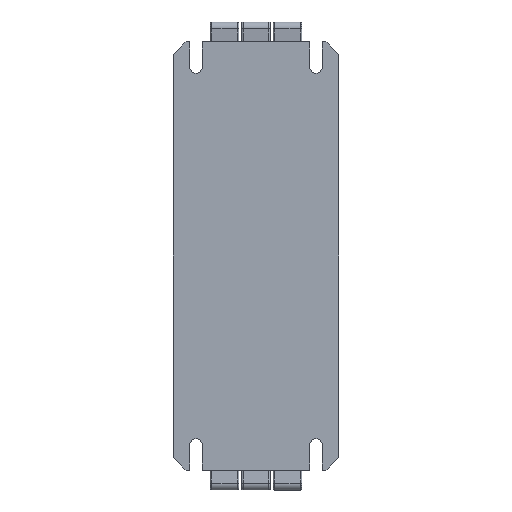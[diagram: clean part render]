
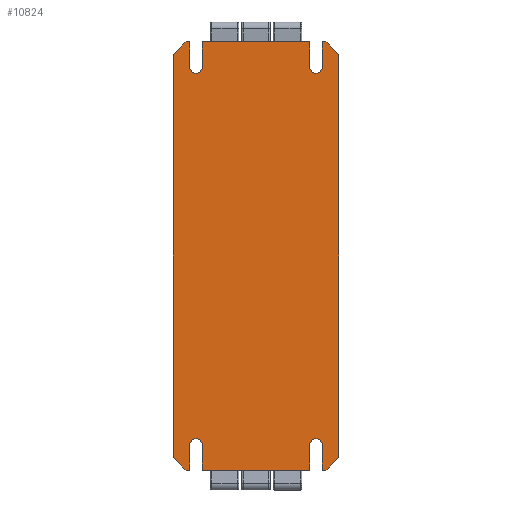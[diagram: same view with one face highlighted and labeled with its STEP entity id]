
A CAD part, front view. The second image highlights one B-rep face of the part: STEP entity #10824.
In plain terms, the highlighted planar face has unit normal (0, -1, 0).
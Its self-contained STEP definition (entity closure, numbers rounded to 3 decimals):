
#9932=CARTESIAN_POINT('',(-29.,-29.,-70.5));
#9933=VERTEX_POINT('',#9932);
#9940=CARTESIAN_POINT('',(-29.,-29.,70.5));
#9941=VERTEX_POINT('',#9940);
#9942=CARTESIAN_POINT('',(-29.,-29.,70.5));
#9943=DIRECTION('',(0.0,0.0,-1.0));
#9944=VECTOR('',#9943,141.0);
#9945=LINE('',#9942,#9944);
#9946=EDGE_CURVE('',#9941,#9933,#9945,.T.);
#9982=CARTESIAN_POINT('',(24.5,-29.,75.0));
#9983=VERTEX_POINT('',#9982);
#9984=CARTESIAN_POINT('',(29.,-29.,70.5));
#9985=VERTEX_POINT('',#9984);
#9986=CARTESIAN_POINT('',(24.5,-29.,75.0));
#9987=DIRECTION('',(0.707,0.0,-0.707));
#9988=VECTOR('',#9987,6.364);
#9989=LINE('',#9986,#9988);
#9990=EDGE_CURVE('',#9983,#9985,#9989,.T.);
#10031=CARTESIAN_POINT('',(23.25,-29.,75.0));
#10032=VERTEX_POINT('',#10031);
#10039=CARTESIAN_POINT('',(24.5,-29.,75.0));
#10040=DIRECTION('',(-1.0,0.0,0.0));
#10041=VECTOR('',#10040,1.25);
#10042=LINE('',#10039,#10041);
#10043=EDGE_CURVE('',#9983,#10032,#10042,.T.);
#10145=CARTESIAN_POINT('',(-24.5,-29.,75.0));
#10146=VERTEX_POINT('',#10145);
#10147=CARTESIAN_POINT('',(-29.,-29.,70.5));
#10148=DIRECTION('',(0.707,0.0,0.707));
#10149=VECTOR('',#10148,6.364);
#10150=LINE('',#10147,#10149);
#10151=EDGE_CURVE('',#9941,#10146,#10150,.T.);
#10177=CARTESIAN_POINT('',(-24.5,-29.,-75.0));
#10178=VERTEX_POINT('',#10177);
#10185=CARTESIAN_POINT('',(-24.5,-29.,-75.));
#10186=DIRECTION('',(-0.707,0.0,0.707));
#10187=VECTOR('',#10186,6.364);
#10188=LINE('',#10185,#10187);
#10189=EDGE_CURVE('',#10178,#9933,#10188,.T.);
#10209=CARTESIAN_POINT('',(-23.25,-29.,-75.0));
#10210=VERTEX_POINT('',#10209);
#10217=CARTESIAN_POINT('',(-23.25,-29.,-75.0));
#10218=DIRECTION('',(-1.0,0.0,0.0));
#10219=VECTOR('',#10218,1.25);
#10220=LINE('',#10217,#10219);
#10221=EDGE_CURVE('',#10210,#10178,#10220,.T.);
#10331=CARTESIAN_POINT('',(29.,-29.,-70.5));
#10332=VERTEX_POINT('',#10331);
#10339=CARTESIAN_POINT('',(24.5,-29.,-75.0));
#10340=VERTEX_POINT('',#10339);
#10341=CARTESIAN_POINT('',(29.,-29.,-70.5));
#10342=DIRECTION('',(-0.707,0.0,-0.707));
#10343=VECTOR('',#10342,6.364);
#10344=LINE('',#10341,#10343);
#10345=EDGE_CURVE('',#10332,#10340,#10344,.T.);
#10363=CARTESIAN_POINT('',(29.,-29.,70.5));
#10364=DIRECTION('',(0.0,0.0,-1.0));
#10365=VECTOR('',#10364,141.0);
#10366=LINE('',#10363,#10365);
#10367=EDGE_CURVE('',#9985,#10332,#10366,.T.);
#10404=CARTESIAN_POINT('',(-23.25,-29.,66.25));
#10405=VERTEX_POINT('',#10404);
#10412=CARTESIAN_POINT('',(-18.75,-29.0,66.25));
#10413=VERTEX_POINT('',#10412);
#10414=CARTESIAN_POINT('',(-21.,-29.,66.25));
#10415=DIRECTION('',(0.0,1.0,0.0));
#10416=DIRECTION('',(1.0,0.0,0.0));
#10417=AXIS2_PLACEMENT_3D('',#10414,#10415,#10416);
#10418=CIRCLE('',#10417,2.25);
#10419=EDGE_CURVE('',#10413,#10405,#10418,.T.);
#10436=CARTESIAN_POINT('',(-23.25,-29.,75.0));
#10437=VERTEX_POINT('',#10436);
#10444=CARTESIAN_POINT('',(-23.25,-29.,66.25));
#10445=DIRECTION('',(0.0,0.0,1.0));
#10446=VECTOR('',#10445,8.75);
#10447=LINE('',#10444,#10446);
#10448=EDGE_CURVE('',#10405,#10437,#10447,.T.);
#10461=CARTESIAN_POINT('',(-18.75,-29.0,75.0));
#10462=VERTEX_POINT('',#10461);
#10463=CARTESIAN_POINT('',(-18.75,-29.0,75.0));
#10464=DIRECTION('',(0.0,0.0,-1.0));
#10465=VECTOR('',#10464,8.75);
#10466=LINE('',#10463,#10465);
#10467=EDGE_CURVE('',#10462,#10413,#10466,.T.);
#10484=CARTESIAN_POINT('',(23.25,-29.,66.25));
#10485=VERTEX_POINT('',#10484);
#10492=CARTESIAN_POINT('',(23.25,-29.,75.0));
#10493=DIRECTION('',(0.0,0.0,-1.0));
#10494=VECTOR('',#10493,8.75);
#10495=LINE('',#10492,#10494);
#10496=EDGE_CURVE('',#10032,#10485,#10495,.T.);
#10508=CARTESIAN_POINT('',(18.75,-29.,75.0));
#10509=VERTEX_POINT('',#10508);
#10516=CARTESIAN_POINT('',(18.75,-29.,66.25));
#10517=VERTEX_POINT('',#10516);
#10518=CARTESIAN_POINT('',(18.75,-29.,66.25));
#10519=DIRECTION('',(0.0,0.0,1.0));
#10520=VECTOR('',#10519,8.75);
#10521=LINE('',#10518,#10520);
#10522=EDGE_CURVE('',#10517,#10509,#10521,.T.);
#10561=CARTESIAN_POINT('',(21.,-29.,66.25));
#10562=DIRECTION('',(0.0,1.0,0.0));
#10563=DIRECTION('',(1.0,0.0,0.0));
#10564=AXIS2_PLACEMENT_3D('',#10561,#10562,#10563);
#10565=CIRCLE('',#10564,2.25);
#10566=EDGE_CURVE('',#10485,#10517,#10565,.T.);
#10578=CARTESIAN_POINT('',(18.75,-29.,75.0));
#10579=DIRECTION('',(-1.0,0.0,0.0));
#10580=VECTOR('',#10579,37.5);
#10581=LINE('',#10578,#10580);
#10582=EDGE_CURVE('',#10509,#10462,#10581,.T.);
#10595=CARTESIAN_POINT('',(-18.75,-29.0,-66.25));
#10596=VERTEX_POINT('',#10595);
#10603=CARTESIAN_POINT('',(-23.25,-29.,-66.25));
#10604=VERTEX_POINT('',#10603);
#10605=CARTESIAN_POINT('',(-21.,-29.,-66.25));
#10606=DIRECTION('',(0.0,1.0,0.0));
#10607=DIRECTION('',(1.0,0.0,0.0));
#10608=AXIS2_PLACEMENT_3D('',#10605,#10606,#10607);
#10609=CIRCLE('',#10608,2.25);
#10610=EDGE_CURVE('',#10604,#10596,#10609,.T.);
#10628=CARTESIAN_POINT('',(-23.25,-29.,-75.0));
#10629=DIRECTION('',(0.0,0.0,1.0));
#10630=VECTOR('',#10629,8.75);
#10631=LINE('',#10628,#10630);
#10632=EDGE_CURVE('',#10210,#10604,#10631,.T.);
#10644=CARTESIAN_POINT('',(-18.75,-29.0,-75.0));
#10645=VERTEX_POINT('',#10644);
#10652=CARTESIAN_POINT('',(-18.75,-29.0,-66.25));
#10653=DIRECTION('',(0.0,0.0,-1.0));
#10654=VECTOR('',#10653,8.75);
#10655=LINE('',#10652,#10654);
#10656=EDGE_CURVE('',#10596,#10645,#10655,.T.);
#10668=CARTESIAN_POINT('',(23.25,-29.,-66.25));
#10669=VERTEX_POINT('',#10668);
#10676=CARTESIAN_POINT('',(18.75,-29.,-66.25));
#10677=VERTEX_POINT('',#10676);
#10678=CARTESIAN_POINT('',(21.,-29.,-66.25));
#10679=DIRECTION('',(0.0,1.0,0.0));
#10680=DIRECTION('',(1.0,0.0,0.0));
#10681=AXIS2_PLACEMENT_3D('',#10678,#10679,#10680);
#10682=CIRCLE('',#10681,2.25);
#10683=EDGE_CURVE('',#10677,#10669,#10682,.T.);
#10701=CARTESIAN_POINT('',(18.75,-29.,-75.0));
#10702=VERTEX_POINT('',#10701);
#10703=CARTESIAN_POINT('',(18.75,-29.,-75.0));
#10704=DIRECTION('',(0.0,0.0,1.0));
#10705=VECTOR('',#10704,8.75);
#10706=LINE('',#10703,#10705);
#10707=EDGE_CURVE('',#10702,#10677,#10706,.T.);
#10724=CARTESIAN_POINT('',(23.25,-29.,-75.0));
#10725=VERTEX_POINT('',#10724);
#10732=CARTESIAN_POINT('',(23.25,-29.,-66.25));
#10733=DIRECTION('',(0.0,0.0,-1.0));
#10734=VECTOR('',#10733,8.75);
#10735=LINE('',#10732,#10734);
#10736=EDGE_CURVE('',#10669,#10725,#10735,.T.);
#10748=CARTESIAN_POINT('',(24.5,-29.,-75.0));
#10749=DIRECTION('',(-1.0,0.0,0.0));
#10750=VECTOR('',#10749,1.25);
#10751=LINE('',#10748,#10750);
#10752=EDGE_CURVE('',#10340,#10725,#10751,.T.);
#10765=CARTESIAN_POINT('',(-23.25,-29.,75.0));
#10766=DIRECTION('',(-1.0,0.0,0.0));
#10767=VECTOR('',#10766,1.25);
#10768=LINE('',#10765,#10767);
#10769=EDGE_CURVE('',#10437,#10146,#10768,.T.);
#10784=CARTESIAN_POINT('',(18.75,-29.,-75.0));
#10785=DIRECTION('',(-1.0,0.0,0.0));
#10786=VECTOR('',#10785,37.5);
#10787=LINE('',#10784,#10786);
#10788=EDGE_CURVE('',#10702,#10645,#10787,.T.);
#10793=CARTESIAN_POINT('',(29.,-29.,0.0));
#10794=DIRECTION('',(0.0,-1.0,0.0));
#10795=DIRECTION('',(0.0,0.0,-1.0));
#10796=AXIS2_PLACEMENT_3D('',#10793,#10794,#10795);
#10797=PLANE('',#10796);
#10798=ORIENTED_EDGE('',*,*,#9990,.F.);
#10799=ORIENTED_EDGE('',*,*,#10043,.T.);
#10800=ORIENTED_EDGE('',*,*,#10496,.T.);
#10801=ORIENTED_EDGE('',*,*,#10566,.T.);
#10802=ORIENTED_EDGE('',*,*,#10522,.T.);
#10803=ORIENTED_EDGE('',*,*,#10582,.T.);
#10804=ORIENTED_EDGE('',*,*,#10467,.T.);
#10805=ORIENTED_EDGE('',*,*,#10419,.T.);
#10806=ORIENTED_EDGE('',*,*,#10448,.T.);
#10807=ORIENTED_EDGE('',*,*,#10769,.T.);
#10808=ORIENTED_EDGE('',*,*,#10151,.F.);
#10809=ORIENTED_EDGE('',*,*,#9946,.T.);
#10810=ORIENTED_EDGE('',*,*,#10189,.F.);
#10811=ORIENTED_EDGE('',*,*,#10221,.F.);
#10812=ORIENTED_EDGE('',*,*,#10632,.T.);
#10813=ORIENTED_EDGE('',*,*,#10610,.T.);
#10814=ORIENTED_EDGE('',*,*,#10656,.T.);
#10815=ORIENTED_EDGE('',*,*,#10788,.F.);
#10816=ORIENTED_EDGE('',*,*,#10707,.T.);
#10817=ORIENTED_EDGE('',*,*,#10683,.T.);
#10818=ORIENTED_EDGE('',*,*,#10736,.T.);
#10819=ORIENTED_EDGE('',*,*,#10752,.F.);
#10820=ORIENTED_EDGE('',*,*,#10345,.F.);
#10821=ORIENTED_EDGE('',*,*,#10367,.F.);
#10822=EDGE_LOOP('',(#10798,#10799,#10800,#10801,#10802,#10803,#10804,#10805,#10806,#10807,#10808,#10809,#10810,#10811,#10812,#10813,#10814,#10815,#10816,#10817,#10818,#10819,#10820,#10821));
#10823=FACE_OUTER_BOUND('',#10822,.T.);
#10824=ADVANCED_FACE('',(#10823),#10797,.T.);
